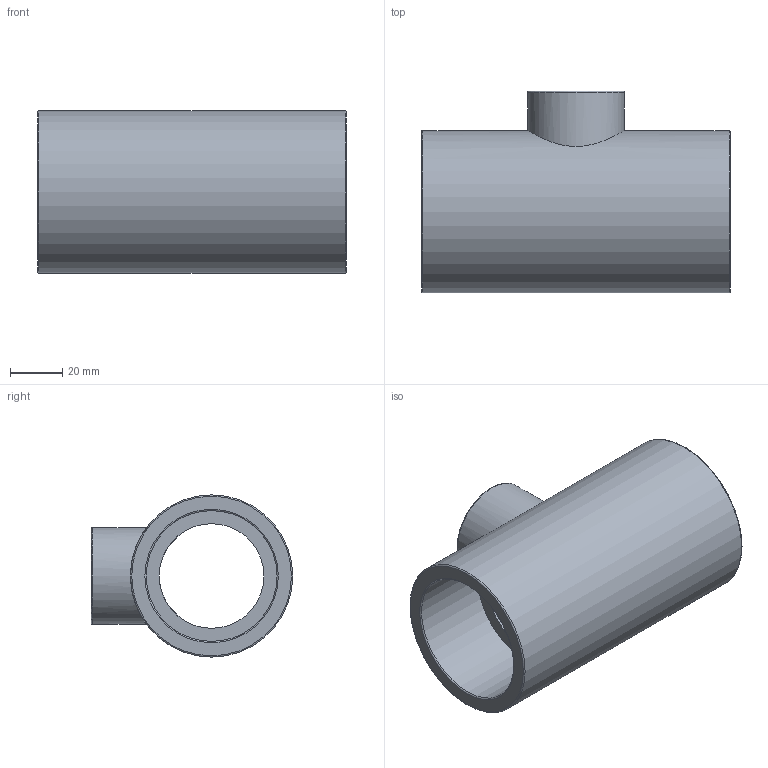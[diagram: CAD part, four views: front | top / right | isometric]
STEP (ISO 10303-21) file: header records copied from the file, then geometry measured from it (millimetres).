
FILE_DESCRIPTION(/* description */ ('PLASSON REDUCER TEE - CEMENT PVC 50-25-50'),/* implementation_level */ '2;1');
FILE_NAME(/* name */ 'C:\Dropbox\KIMPROJECTS-Inventor\99-16-3568-Processing\PVC Catalog 2017\051400\051400050025.ipt.stp',/* time_stamp */ '2017-12-07T16:00:18+02:00',/* author */ ('KIM'),/* organization */ (''),/* preprocessor_version */ 'ST-DEVELOPER v15.6',/* originating_system */ 'Autodesk Inventor 2015',/* authorisation */ '');
FILE_SCHEMA (('AUTOMOTIVE_DESIGN { 1 0 10303 214 3 1 1 }'));
Length unit declared in the file: millimetre
Products named in the file (1): 051400050025
Bounding box: 118 x 77 x 62 mm (x, y, z)
Volume: 168876.3 mm3; surface area: 46459 mm2
Topology: 1 solids, 1 shells, 19 faces, 39 edges, 24 vertices
Faces by surface type: cylinder 7, torus 6, plane 6
Full cylindrical faces by diameter (mm): 22.5 x1, 25 x1, 37 x1, 40 x1, 50 x2, 62 x1
Entity records: 526 total; most frequent: CARTESIAN_POINT 166, DIRECTION 76, EDGE_LOOP 40, ORIENTED_EDGE 40, AXIS2_PLACEMENT_3D 38, FACE_BOUND 21, VERTEX_POINT 20, EDGE_CURVE 20
